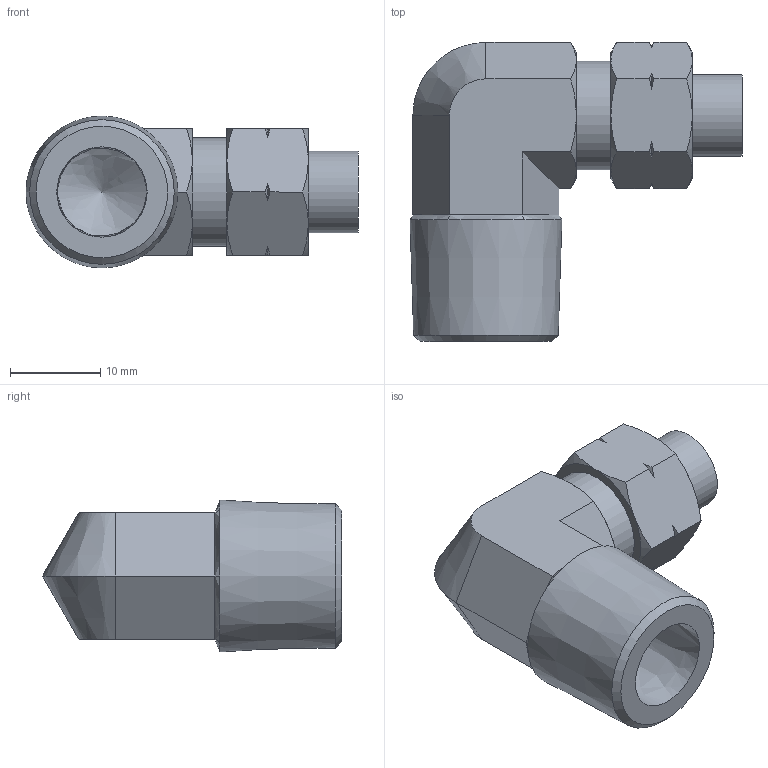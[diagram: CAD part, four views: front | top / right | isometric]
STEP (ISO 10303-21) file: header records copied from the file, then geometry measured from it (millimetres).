
FILE_DESCRIPTION((''),'2;1');
FILE_NAME('D:\INVENTOR\[New Inventor]\CDC Products 3D Ass''y\Two-Touch Fittings\Metric\CL\CL8-5--03.stp','2009-02-23T16:22:27',('Microsoft'),(''),'Autodesk Inventor 2008','Autodesk Inventor 2008','');
FILE_SCHEMA(('AUTOMOTIVE_DESIGN { 1 0 10303 214 1 1 1 1 }'));
Length unit declared in the file: millimetre
Products named in the file (1): CL8-5--03
Bounding box: 36.73 x 33.08 x 16.8 mm (x, y, z)
Volume: 5662.8 mm3; surface area: 4456.8 mm2
Topology: 1 solids, 1 shells, 71 faces, 164 edges, 99 vertices
Faces by surface type: cone 32, plane 23, bspline 10, cylinder 5, torus 1
Full cylindrical faces by diameter (mm): 3.5 x1, 4.7 x1, 8.2 x1, 9 x1, 12 x1
Entity records: 2146 total; most frequent: CARTESIAN_POINT 774, ORIENTED_EDGE 300, DIRECTION 250, EDGE_CURVE 150, AXIS2_PLACEMENT_3D 107, VERTEX_POINT 95, EDGE_LOOP 87, FACE_OUTER_BOUND 71
